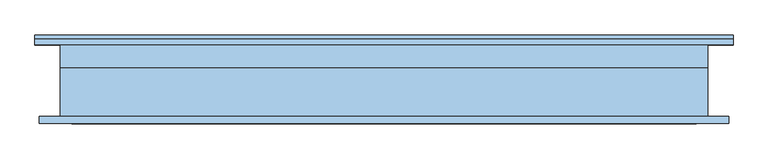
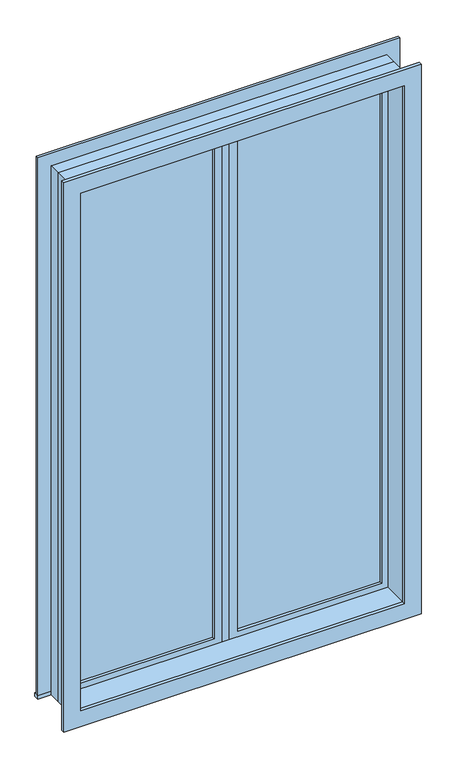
"""IFC4 building model written with IfcOpenShell, lengths in millimetres: window geometry, 双扇平开 - 带贴面 : 1800*3000MM."""

from ifc_helpers import new_model, si_unit, frame, origin, place, context, project, spatial, polyline, outline, extrude, source, transform, mapped, element, save


def window_d386cda9(model_context):
    return source(origin(), model_context, "Body", "SweptSolid", [
        extrude(outline(polyline([(63.5, 64.125), (836.5, 64.125), (836.5, 51.425), (63.5, 51.425), (63.5, 64.125)])), frame((0.0, 0.0, 964.5), z_axis=(0.0, 0.0, 1.0), x_axis=(1.0, 0.0, 0.0)), (0.0, 0.0, 1.0), 2873.0),
        extrude(outline(polyline([(3881.95, 19.05), (920.05, 19.05), (920.05, 880.95), (3881.95, 880.95), (3881.95, 19.05)]), holes=[polyline([(3837.5, 63.5), (3837.5, 836.5), (964.5, 836.5), (964.5, 63.5), (3837.5, 63.5)])]), frame((0.0, 35.55, 0.0), z_axis=(0.0, 1.0, 0.0), x_axis=(0.0, 0.0, 1.0)), (0.0, 0.0, 1.0), 44.45),
        extrude(outline(polyline([(19.05, 35.55), (-19.05, 35.55), (-19.05, 99.05), (19.05, 99.05), (19.05, 35.55)])), frame((0.0, 0.0, 920.05), z_axis=(0.0, 0.0, 1.0), x_axis=(1.0, 0.0, 0.0)), (0.0, 0.0, 1.0), 2961.9),
        extrude(outline(polyline([(-63.5, 51.425), (-836.5, 51.425), (-836.5, 64.125), (-63.5, 64.125), (-63.5, 51.425)])), frame((0.0, 0.0, 964.5), z_axis=(0.0, 0.0, 1.0), x_axis=(1.0, 0.0, 0.0)), (0.0, 0.0, 1.0), 2873.0),
        extrude(outline(polyline([(3881.95, -880.95), (920.05, -880.95), (920.05, -19.05), (3881.95, -19.05), (3881.95, -880.95)]), holes=[polyline([(3837.5, -836.5), (3837.5, -63.5), (964.5, -63.5), (964.5, -836.5), (3837.5, -836.5)])]), frame((0.0, 35.55, 0.0), z_axis=(0.0, 1.0, 0.0), x_axis=(0.0, 0.0, 1.0)), (0.0, 0.0, 1.0), 44.45),
        extrude(outline(polyline([(3901.0, -900.0), (901.0, -900.0), (901.0, 900.0), (3901.0, 900.0), (3901.0, -900.0)]), holes=[polyline([(3869.25, -868.25), (3869.25, 868.25), (932.75, 868.25), (932.75, -868.25), (3869.25, -868.25)])]), frame((0.0, -100.0, 0.0), z_axis=(0.0, 1.0, 0.0), x_axis=(0.0, 0.0, 1.0)), (0.0, 0.0, 1.0), 135.55),
        extrude(outline(polyline([(3901.0, 900.0), (3901.0, -900.0), (901.0, -900.0), (901.0, 900.0), (3901.0, 900.0)]), holes=[polyline([(3881.95, 880.95), (920.05, 880.95), (920.05, -880.95), (3881.95, -880.95), (3881.95, 880.95)])]), frame((0.0, 35.55, 0.0), z_axis=(0.0, 1.0, 0.0), x_axis=(0.0, 0.0, 1.0)), (0.0, 0.0, 1.0), 64.45),
        extrude(outline(polyline([(-970.95, 127.7), (970.95, 127.7), (970.95, 100.0), (-970.95, 100.0), (-970.95, 127.7)])), frame((0.0, 0.0, 901.0), z_axis=(0.0, 0.0, 1.0), x_axis=(1.0, 0.0, 0.0)), (0.0, 0.0, 1.0), 19.05),
        extrude(outline(polyline([(3881.95, -880.95), (3881.95, 880.95), (920.05, 880.95), (920.05, 970.95), (3971.95, 970.95), (3971.95, -970.95), (920.05, -970.95), (920.05, -880.95), (3881.95, -880.95)])), frame((0.0, 100.0, 0.0), z_axis=(0.0, 1.0, 0.0), x_axis=(0.0, 0.0, 1.0)), (0.0, 0.0, 1.0), 15.0),
        extrude(outline(polyline([(3959.25, 958.25), (3959.25, -958.25), (842.75, -958.25), (842.75, 958.25), (3959.25, 958.25)]), holes=[polyline([(3869.25, 868.25), (932.75, 868.25), (932.75, -868.25), (3869.25, -868.25), (3869.25, 868.25)])]), frame((0.0, -120.0, 0.0), z_axis=(0.0, 1.0, 0.0), x_axis=(0.0, 0.0, 1.0)), (0.0, 0.0, 1.0), 20.0),
    ])


if __name__ == "__main__":
    model = new_model("IFC4")
    model_context = context("Model", 3, world=origin())
    ifc_project = project(units=[si_unit("LENGTHUNIT", "METRE", prefix="MILLI")], contexts=[model_context])
    site = spatial("IfcSite", under=ifc_project)
    building = spatial("IfcBuilding", under=site)
    placement = place(None, origin())
    window_shape = window_d386cda9(model_context)
    element("IfcWindow", 1, ObjectType="双扇平开 - 带贴面 : 1800*3000MM", at=placement, inside=building, context=model_context, shape_type="MappedRepresentation", body=[
        mapped(window_shape, transform((0.0, 0.0, 0.0), x_axis=(1.0, 0.0, 0.0), y_axis=(0.0, 1.0, 0.0), z_axis=(0.0, 0.0, 1.0))),
    ])
    save(model, "model.ifc")
